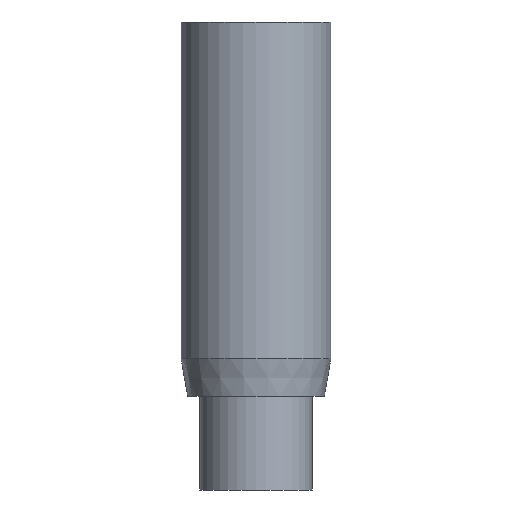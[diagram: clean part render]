
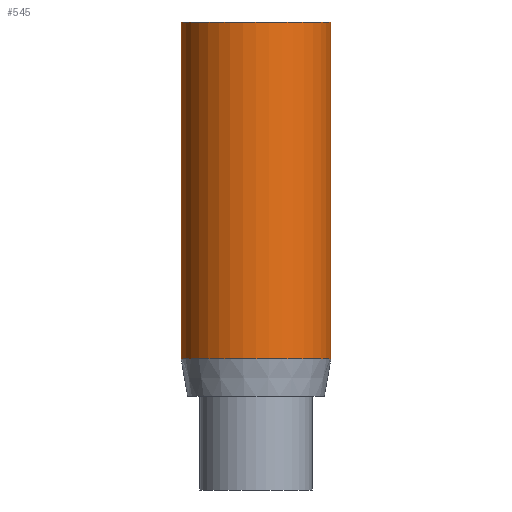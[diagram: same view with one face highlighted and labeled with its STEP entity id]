
A CAD part, front view. The second image highlights one B-rep face of the part: STEP entity #545.
In plain terms, the highlighted cylindrical face has radius 4 mm (diameter 8 mm), a partial arc.
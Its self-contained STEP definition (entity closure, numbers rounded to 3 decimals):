
#392 = LINE ( 'NONE', #17172, #11024 ) ;
#545 = ADVANCED_FACE ( 'NONE', ( #8878 ), #12341, .T. ) ;
#1043 = CARTESIAN_POINT ( 'NONE',  ( 4., 0., 0. ) ) ;
#1393 = CARTESIAN_POINT ( 'NONE',  ( -4., 0., -18. ) ) ;
#1589 = DIRECTION ( 'NONE',  ( 1., 0., 0. ) ) ;
#1594 = VERTEX_POINT ( 'NONE', #1393 ) ;
#1710 = VERTEX_POINT ( 'NONE', #8619 ) ;
#1890 = DIRECTION ( 'NONE',  ( 0., 0., -1. ) ) ;
#1976 = CARTESIAN_POINT ( 'NONE',  ( 0., 0., 0. ) ) ;
#2138 = AXIS2_PLACEMENT_3D ( 'NONE', #6874, #15271, #1589 ) ;
#2922 = AXIS2_PLACEMENT_3D ( 'NONE', #1976, #3356, #3305 ) ;
#3305 = DIRECTION ( 'NONE',  ( -1., 0., 0. ) ) ;
#3356 = DIRECTION ( 'NONE',  ( 0., 0., -1. ) ) ;
#4840 = EDGE_CURVE ( 'NONE', #10310, #1710, #392, .T. ) ;
#6231 = AXIS2_PLACEMENT_3D ( 'NONE', #14265, #17082, #11261 ) ;
#6345 = CARTESIAN_POINT ( 'NONE',  ( -4., 0., 0. ) ) ;
#6438 = EDGE_CURVE ( 'NONE', #10310, #17951, #15935, .T. ) ;
#6796 = EDGE_CURVE ( 'NONE', #1594, #1710, #8501, .T. ) ;
#6874 = CARTESIAN_POINT ( 'NONE',  ( 0., 0., -18. ) ) ;
#7404 = VECTOR ( 'NONE', #16072, 1000. ) ;
#8501 = CIRCLE ( 'NONE', #2138, 4. ) ;
#8619 = CARTESIAN_POINT ( 'NONE',  ( 4., 0., -18. ) ) ;
#8702 = ORIENTED_EDGE ( 'NONE', *, *, #4840, .F. ) ;
#8878 = FACE_OUTER_BOUND ( 'NONE', #15211, .T. ) ;
#10310 = VERTEX_POINT ( 'NONE', #1043 ) ;
#11010 = CARTESIAN_POINT ( 'NONE',  ( -4., 0., 0. ) ) ;
#11024 = VECTOR ( 'NONE', #1890, 1000. ) ;
#11261 = DIRECTION ( 'NONE',  ( -1., 0., 0. ) ) ;
#12341 = CYLINDRICAL_SURFACE ( 'NONE', #6231, 4. ) ;
#12345 = ORIENTED_EDGE ( 'NONE', *, *, #6796, .T. ) ;
#14265 = CARTESIAN_POINT ( 'NONE',  ( 0., 0., 0. ) ) ;
#14802 = LINE ( 'NONE', #6345, #7404 ) ;
#15211 = EDGE_LOOP ( 'NONE', ( #8702, #17251, #17821, #12345 ) ) ;
#15271 = DIRECTION ( 'NONE',  ( 0., 0., 1. ) ) ;
#15422 = EDGE_CURVE ( 'NONE', #17951, #1594, #14802, .T. ) ;
#15935 = CIRCLE ( 'NONE', #2922, 4. ) ;
#16072 = DIRECTION ( 'NONE',  ( 0., 0., -1. ) ) ;
#17082 = DIRECTION ( 'NONE',  ( 0., 0., -1. ) ) ;
#17172 = CARTESIAN_POINT ( 'NONE',  ( 4., 0., 0. ) ) ;
#17251 = ORIENTED_EDGE ( 'NONE', *, *, #6438, .T. ) ;
#17821 = ORIENTED_EDGE ( 'NONE', *, *, #15422, .T. ) ;
#17951 = VERTEX_POINT ( 'NONE', #11010 ) ;
